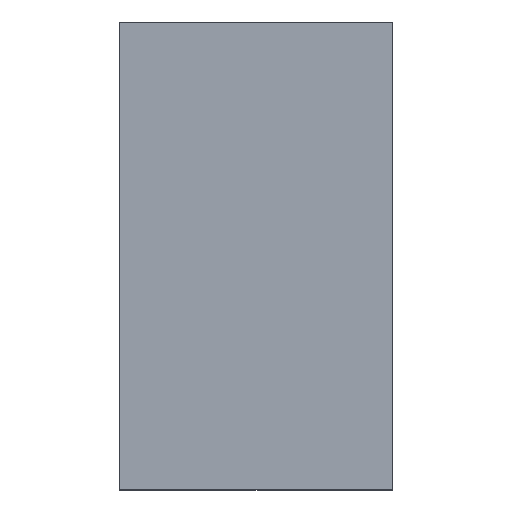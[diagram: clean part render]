
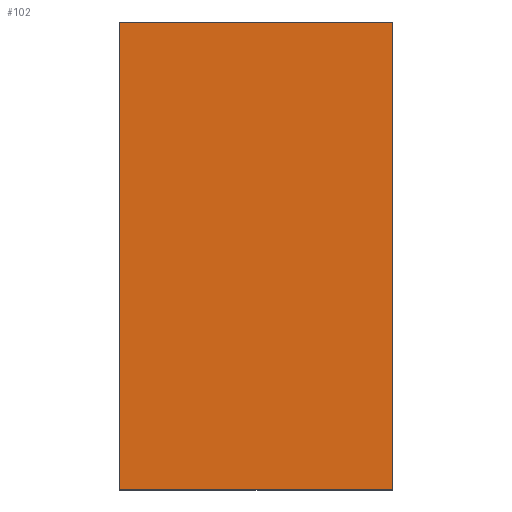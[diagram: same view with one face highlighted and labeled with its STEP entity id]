
A CAD part, top view. The second image highlights one B-rep face of the part: STEP entity #102.
In plain terms, the highlighted planar face has unit normal (0, 0, 1).
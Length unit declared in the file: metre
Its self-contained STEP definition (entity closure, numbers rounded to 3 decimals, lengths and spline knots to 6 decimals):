
#28=ORIENTED_EDGE('',*,*,#47,.T.);
#29=ORIENTED_EDGE('',*,*,#44,.T.);
#30=ORIENTED_EDGE('',*,*,#41,.T.);
#31=ORIENTED_EDGE('',*,*,#38,.T.);
#38=EDGE_CURVE('',#51,#50,#58,.F.);
#41=EDGE_CURVE('',#53,#51,#61,.T.);
#44=EDGE_CURVE('',#55,#53,#64,.T.);
#47=EDGE_CURVE('',#50,#55,#67,.F.);
#50=VERTEX_POINT('',#147);
#51=VERTEX_POINT('',#149);
#53=VERTEX_POINT('',#155);
#55=VERTEX_POINT('',#161);
#58=LINE('',#148,#70);
#61=LINE('',#154,#73);
#64=LINE('',#160,#76);
#67=LINE('',#165,#79);
#70=VECTOR('',#121,1.);
#73=VECTOR('',#126,1.);
#76=VECTOR('',#131,1.);
#79=VECTOR('',#136,1.);
#84=EDGE_LOOP('',(#28,#29,#30,#31));
#90=FACE_BOUND('',#84,.T.);
#96=PLANE('',#113);
#102=ADVANCED_FACE('',(#90),#96,.T.);
#113=AXIS2_PLACEMENT_3D('',#166,#137,#138);
#121=DIRECTION('',(1.,0.,0.));
#126=DIRECTION('',(0.,1.,0.));
#131=DIRECTION('',(1.,0.,0.));
#136=DIRECTION('',(0.,1.,0.));
#137=DIRECTION('',(0.,0.,1.));
#138=DIRECTION('',(1.,0.,0.));
#147=CARTESIAN_POINT('',(0.002348,0.00045,-0.0268));
#148=CARTESIAN_POINT('',(0.004098,0.00045,-0.0268));
#149=CARTESIAN_POINT('',(0.005848,0.00045,-0.0268));
#154=CARTESIAN_POINT('',(0.005848,-0.00255,-0.0268));
#155=CARTESIAN_POINT('',(0.005848,-0.00555,-0.0268));
#160=CARTESIAN_POINT('',(0.004098,-0.00555,-0.0268));
#161=CARTESIAN_POINT('',(0.002348,-0.00555,-0.0268));
#165=CARTESIAN_POINT('',(0.002348,-0.00255,-0.0268));
#166=CARTESIAN_POINT('',(0.004098,-0.00255,-0.0268));
